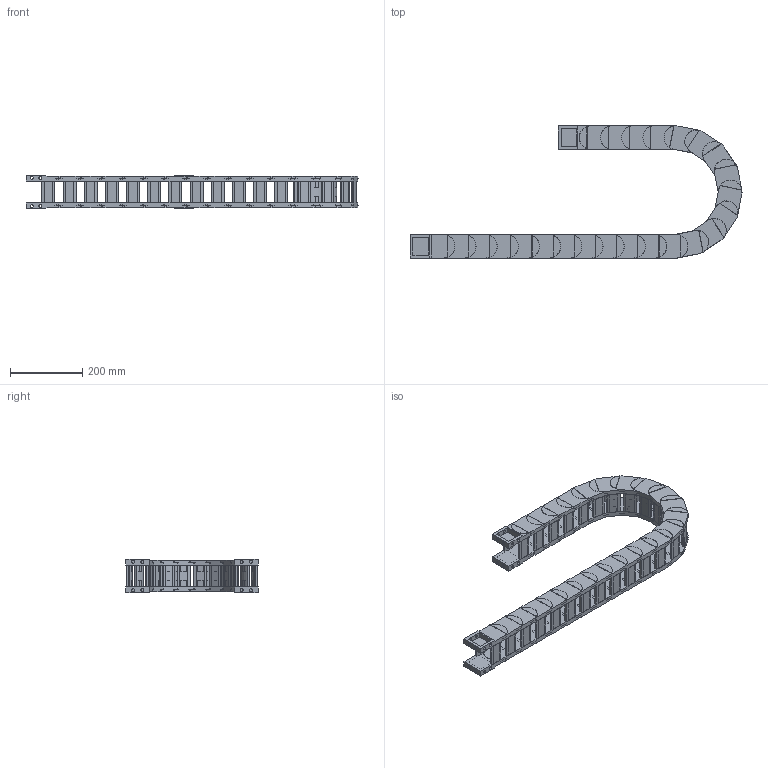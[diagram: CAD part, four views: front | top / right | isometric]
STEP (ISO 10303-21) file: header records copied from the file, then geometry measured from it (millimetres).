
FILE_DESCRIPTION((''),'2;1');
FILE_NAME('HD45-R150-ZPT_ASM','2022-06-20T19:12:47',('admin'),(''),'CREO PARAMETRIC BY PTC INC, 2021164','CREO PARAMETRIC BY PTC INC, 2021164','');
FILE_SCHEMA(('CONFIG_CONTROL_DESIGN','GEOMETRIC_VALIDATION_PROPERTIES_MIM'));
Length unit declared in the file: millimetre
Products named in the file (6): HD45-585; 45-500001; HD45_ASM; H45-T1-G; H45-T2-G; HD45-R150-ZPT_ASM
Assembly tree (29 placements, depth 3):
  HD45-R150-ZPT_ASM
    HD45_ASM  x23
      HD45-585
      45-500001
    H45-T1-G
    H45-T2-G
    45-500001  x2
Bounding box: 916.94 x 365 x 93.1 mm (x, y, z)
Volume: 3636815.3 mm3; surface area: 1283639.9 mm2
Topology: 100 solids, 100 shells, 1942 faces, 5198 edges, 3560 vertices
Faces by surface type: plane 1276, cylinder 666
Entity records: 8666 total; most frequent: CARTESIAN_POINT 1398, DIRECTION 1388, ORIENTED_EDGE 1276, EDGE_CURVE 638, AXIS2_PLACEMENT_3D 483, VERTEX_POINT 432, VECTOR 422, LINE 422
